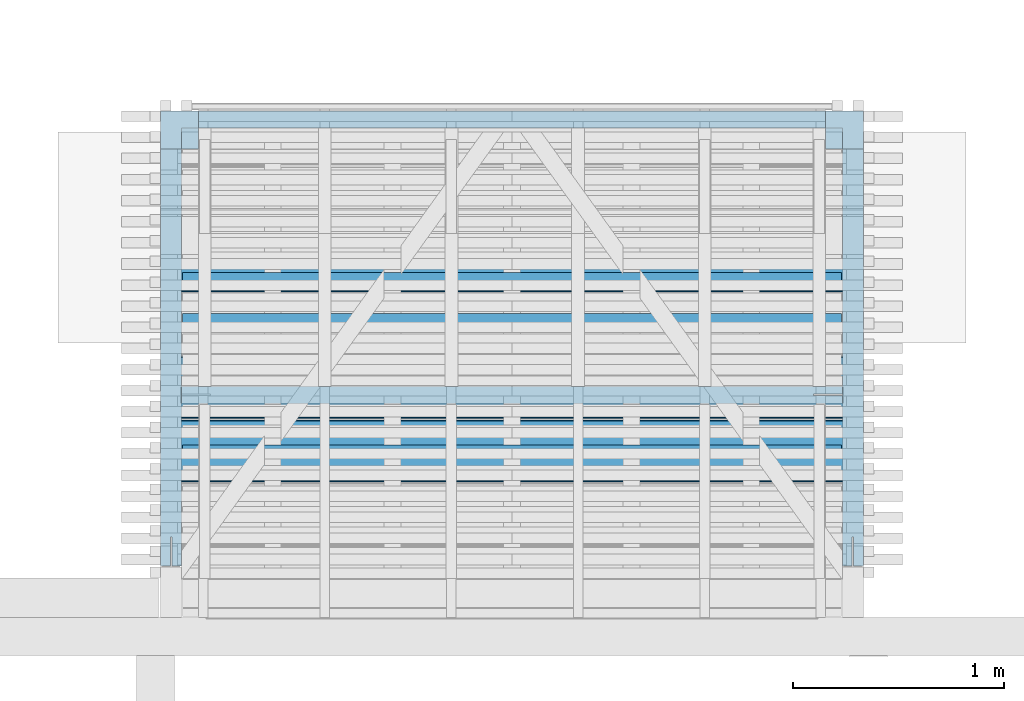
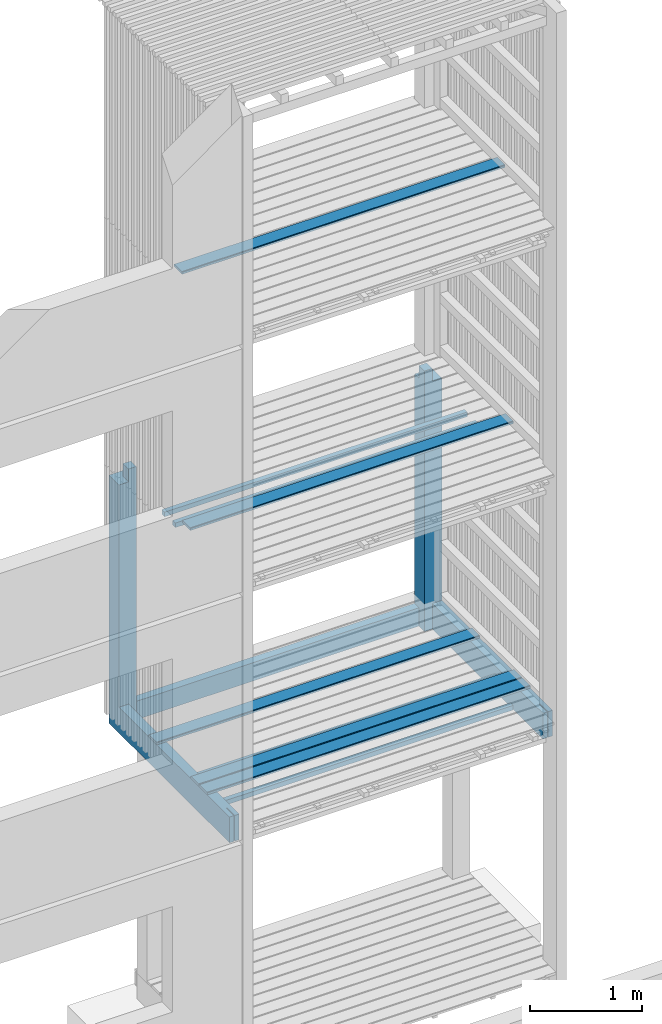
# One storey, part 119 of 182: 9 beams.
"""IFC2X3 building model written with IfcOpenShell, lengths in metres."""

from ifc_helpers import new_model, si_unit, frame, origin, place, context, project, spatial, faceted_brep, element, save


model = new_model("IFC2X3")

# Units and contexts
model_context = context("Model", 3, precision=1e-06, world=origin())
ifc_project = project(units=[si_unit("LENGTHUNIT", "METRE"), si_unit("PLANEANGLEUNIT", "RADIAN")], contexts=[model_context])

# Site, building, storey
site = spatial("IfcSite", under=ifc_project, CompositionType="ELEMENT")
building = spatial("IfcBuilding", under=site, CompositionType="ELEMENT")
storey = spatial("IfcBuildingStorey", under=building, Name="vs", CompositionType="ELEMENT", Elevation=-0.85)

# Beams
placement = place(None, origin())
beam_1_placement = place(placement, frame((54.68999999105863, 6.192577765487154, 2.437999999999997), z_axis=(0.0, -1.0, 0.0), x_axis=(0.0, 0.0, 1.0)))
element("IfcBeam", 1, at=beam_1_placement, inside=storey, Name="Poteau", context=model_context, shape_type="Brep", body=[
    faceted_brep([(2.841999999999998, -1.564999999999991, -0.997499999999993), (2.701999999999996, -1.564999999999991, -0.997499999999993), (2.701999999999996, -1.484999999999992, -0.997499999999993), (2.841999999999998, -1.484999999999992, -0.997499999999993), (2.701999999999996, 1.664999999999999, -1.077499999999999), (2.701999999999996, 1.485000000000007, -1.077499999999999), (0.202000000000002, 1.485000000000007, -1.077499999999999), (0.202000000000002, -1.484999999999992, -1.077499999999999), (2.701999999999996, -1.484999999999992, -1.077499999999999), (2.701999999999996, -1.664999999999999, -1.077499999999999), (0.002000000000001, -1.664999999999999, -1.077499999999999), (0.002000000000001, 1.664999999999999, -1.077499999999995), (0.282000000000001, -1.664999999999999, 1.077499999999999), (0.002000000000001, -1.664999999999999, 1.077499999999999), (0.002000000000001, -1.664999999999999, -1.077499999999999), (2.701999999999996, -1.664999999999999, -1.077499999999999), (2.701999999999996, -1.664999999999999, -0.897499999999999), (0.282000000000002, -1.664999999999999, -0.897499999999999), (2.701999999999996, -1.664999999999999, -0.897499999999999), (2.701999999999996, -1.664999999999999, -1.077499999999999), (2.701999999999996, -1.484999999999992, -1.077499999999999), (2.701999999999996, -1.484999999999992, -0.997499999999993), (2.701999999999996, -1.564999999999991, -0.997499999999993), (2.701999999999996, -1.564999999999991, -0.897499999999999), (2.701999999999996, -1.564999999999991, -0.897499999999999), (2.701999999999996, -1.564999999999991, -0.997499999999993), (2.841999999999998, -1.564999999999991, -0.997499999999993), (2.841999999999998, -1.564999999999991, -0.897499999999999), (2.841999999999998, -1.564999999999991, -0.897499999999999), (2.841999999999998, -1.564999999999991, -0.997499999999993), (2.841999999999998, -1.484999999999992, -0.997499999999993), (2.841999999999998, -1.484999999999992, -0.897499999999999), (0.002000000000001, -1.564999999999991, -0.897499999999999), (0.282000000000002, -1.564999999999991, -0.897499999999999), (0.282000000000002, -1.664999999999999, -0.897499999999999), (2.701999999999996, -1.664999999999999, -0.897499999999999), (2.701999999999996, -1.564999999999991, -0.897499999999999), (2.841999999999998, -1.564999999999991, -0.897499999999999), (2.841999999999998, -1.484999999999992, -0.897499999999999), (0.002000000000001, -1.484999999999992, -0.897499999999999), (0.202000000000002, -1.484999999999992, -0.997499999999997), (0.002000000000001, -1.484999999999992, -0.997499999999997), (0.002000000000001, -1.484999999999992, -0.897499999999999), (2.841999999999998, -1.484999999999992, -0.897499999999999), (2.841999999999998, -1.484999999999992, -0.997499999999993), (2.701999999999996, -1.484999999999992, -0.997499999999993), (2.701999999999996, -1.484999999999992, -1.077499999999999), (0.202000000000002, -1.484999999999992, -1.077499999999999), (2.841999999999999, 1.565000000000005, -0.897499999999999), (2.701999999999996, 1.565000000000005, -0.897499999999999), (2.701999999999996, 1.664999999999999, -0.897499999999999), (0.282000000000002, 1.664999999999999, -0.897499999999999), (0.282000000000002, 1.565000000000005, -0.897499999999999), (0.002000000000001, 1.565000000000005, -0.897499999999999), (0.002000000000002, 1.485000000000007, -0.897499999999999), (2.841999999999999, 1.485000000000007, -0.897499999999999), (2.841999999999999, 1.485000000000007, -0.997499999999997), (2.841999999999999, 1.485000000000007, -0.897499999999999), (0.002000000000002, 1.485000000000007, -0.897499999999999), (0.002000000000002, 1.485000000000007, -0.997500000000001), (0.202000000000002, 1.485000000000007, -0.997500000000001), (0.202000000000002, 1.485000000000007, -1.077499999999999), (2.701999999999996, 1.485000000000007, -1.077499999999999), (2.701999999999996, 1.485000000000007, -0.997499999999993), (2.701999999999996, 1.664999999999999, -1.077499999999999), (0.002000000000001, 1.664999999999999, -1.077499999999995), (0.002000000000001, 1.664999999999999, 1.077499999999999), (0.282000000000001, 1.664999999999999, 1.077499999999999), (0.282000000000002, 1.664999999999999, -0.897499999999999), (2.701999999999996, 1.664999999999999, -0.897499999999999), (0.202000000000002, 1.485000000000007, -0.997500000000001), (0.002000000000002, 1.485000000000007, -0.997500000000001), (0.002000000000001, -1.484999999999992, -0.997499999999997), (0.202000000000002, -1.484999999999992, -0.997499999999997), (0.202000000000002, -1.484999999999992, -1.077499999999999), (0.202000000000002, 1.485000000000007, -1.077499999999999), (0.202000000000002, 1.485000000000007, -0.997500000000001), (0.202000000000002, -1.484999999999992, -0.997499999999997), (0.002000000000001, -1.42799999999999, 0.263500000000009), (0.002, -1.564999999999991, 0.263500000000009), (0.177, -1.564999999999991, 0.263500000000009), (0.202000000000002, -1.564999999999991, 0.263500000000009), (0.202000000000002, -1.42799999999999, 0.263500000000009), (0.002000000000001, -1.42799999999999, 0.271500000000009), (0.002000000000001, -1.42799999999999, 0.263500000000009), (0.202000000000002, -1.42799999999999, 0.263500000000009), (0.202000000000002, -1.42799999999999, 0.271500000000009), (0.177, -1.564999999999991, 0.271500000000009), (0.002, -1.564999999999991, 0.271500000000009), (0.002000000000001, -1.42799999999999, 0.271500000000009), (0.202000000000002, -1.42799999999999, 0.271500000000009), (0.202000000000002, -1.564999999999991, 0.271500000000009), (0.177, -1.564999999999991, 0.263500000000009), (0.002, -1.564999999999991, 0.263500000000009), (0.002, -1.564999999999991, 0.22950000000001), (0.177, -1.564999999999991, 0.22950000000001), (0.202000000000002, -1.564999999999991, 0.271500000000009), (0.202000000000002, -1.42799999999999, 0.271500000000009), (0.202000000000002, -1.42799999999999, 0.263500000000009), (0.202000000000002, -1.564999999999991, 0.263500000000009), (0.202000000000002, -1.564999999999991, 0.227500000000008), (0.202000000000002, 1.565000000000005, 0.227500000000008), (0.202000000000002, 1.565000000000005, 0.30750000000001), (0.202000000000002, -1.564999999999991, 0.30750000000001), (0.002000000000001, 1.565000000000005, 0.227500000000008), (0.202000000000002, 1.565000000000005, 0.227500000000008), (0.202000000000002, -1.564999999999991, 0.227500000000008), (0.002, -1.564999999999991, 0.227500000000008), (0.202000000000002, -1.564999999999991, 0.30750000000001), (0.202000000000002, 1.565000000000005, 0.30750000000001), (0.002000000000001, 1.565000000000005, 0.30750000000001), (0.002, -1.564999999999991, 0.30750000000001), (0.002, -1.564999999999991, 0.305500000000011), (0.002, -1.564999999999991, 0.271500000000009), (0.177, -1.564999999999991, 0.271500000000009), (0.177, -1.564999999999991, 0.305500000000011), (0.002, -1.564999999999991, 0.227500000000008), (0.202000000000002, -1.564999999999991, 0.227500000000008), (0.202000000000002, -1.564999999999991, 0.263500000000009), (0.177, -1.564999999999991, 0.263500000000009), (0.177, -1.564999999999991, 0.271500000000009), (0.202000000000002, -1.564999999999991, 0.271500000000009), (0.202000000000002, -1.564999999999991, 0.30750000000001), (0.002, -1.564999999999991, 0.30750000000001), (0.002000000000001, -1.564999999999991, 1.077499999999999), (0.282000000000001, -1.564999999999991, 1.077499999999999), (0.282000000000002, -1.564999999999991, -0.897499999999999), (0.002000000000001, -1.564999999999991, -0.897499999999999), (0.002, -1.569999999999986, 0.22950000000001), (0.002, -1.569999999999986, 0.305500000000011), (0.177, -1.569999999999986, 0.305500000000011), (0.177, -1.569999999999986, 0.22950000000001), (0.177, -1.564999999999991, 0.271500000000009), (0.177, -1.564999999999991, 0.263500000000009), (0.177, -1.564999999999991, 0.22950000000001), (0.177, -1.569999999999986, 0.22950000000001), (0.177, -1.569999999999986, 0.305500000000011), (0.177, -1.564999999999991, 0.305500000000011), (0.177, -1.564999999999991, 0.22950000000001), (0.002, -1.564999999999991, 0.22950000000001), (0.002, -1.569999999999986, 0.22950000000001), (0.177, -1.569999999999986, 0.22950000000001), (0.177, -1.569999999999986, 0.305500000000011), (0.002, -1.569999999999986, 0.305500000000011), (0.002, -1.564999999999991, 0.305500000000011), (0.177, -1.564999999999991, 0.305500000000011), (0.002000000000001, -1.610999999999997, 0.940500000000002), (0.002000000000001, -1.618999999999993, 0.940500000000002), (0.282000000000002, -1.618999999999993, 0.940500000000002), (0.282000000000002, -1.610999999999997, 0.940500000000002), (0.282000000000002, -1.618999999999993, 0.940500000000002), (0.002000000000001, -1.618999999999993, 0.940500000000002), (0.002000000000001, -1.618999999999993, 1.077499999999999), (0.282000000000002, -1.618999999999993, 1.077500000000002), (0.002000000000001, -1.664999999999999, 1.077499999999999), (0.282000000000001, -1.664999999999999, 1.077499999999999), (0.282000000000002, -1.618999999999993, 1.077500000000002), (0.002000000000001, -1.618999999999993, 1.077499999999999), (0.282000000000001, -1.564999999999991, 1.077499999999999), (0.002000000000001, -1.564999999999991, 1.077499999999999), (0.002000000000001, -1.610999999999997, 1.077499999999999), (0.282000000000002, -1.610999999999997, 1.077500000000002), (0.282000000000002, -1.610999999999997, 1.077500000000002), (0.002000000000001, -1.610999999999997, 1.077499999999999), (0.002000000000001, -1.610999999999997, 0.940500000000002), (0.282000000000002, -1.610999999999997, 0.940500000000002), (0.282000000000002, -1.564999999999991, -0.897499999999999), (0.282000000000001, -1.564999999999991, 1.077499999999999), (0.282000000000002, -1.610999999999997, 1.077500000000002), (0.282000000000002, -1.610999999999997, 0.940500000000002), (0.282000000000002, -1.618999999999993, 0.940500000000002), (0.282000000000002, -1.618999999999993, 1.077500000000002), (0.282000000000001, -1.664999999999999, 1.077499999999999), (0.282000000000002, -1.664999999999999, -0.897499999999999), (0.002000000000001, 1.619000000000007, 0.940499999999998), (0.002000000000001, 1.611000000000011, 0.940499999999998), (0.282000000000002, 1.611000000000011, 0.940499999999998), (0.282000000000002, 1.619000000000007, 0.940499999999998), (0.282000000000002, 1.611000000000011, 0.940499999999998), (0.002000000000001, 1.611000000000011, 0.940499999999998), (0.002000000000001, 1.611000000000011, 1.077499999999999), (0.282000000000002, 1.611000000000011, 1.077499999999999), (0.002000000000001, 1.565000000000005, 1.077499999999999), (0.282000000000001, 1.565000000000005, 1.077499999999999), (0.282000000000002, 1.611000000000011, 1.077499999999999), (0.002000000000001, 1.611000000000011, 1.077499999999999), (0.282000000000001, 1.664999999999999, 1.077499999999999), (0.002000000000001, 1.664999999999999, 1.077499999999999), (0.002000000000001, 1.619000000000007, 1.077499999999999), (0.282000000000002, 1.619000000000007, 1.077499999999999), (0.282000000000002, 1.619000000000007, 1.077499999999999), (0.002000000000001, 1.619000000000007, 1.077499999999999), (0.002000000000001, 1.619000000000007, 0.940499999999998), (0.282000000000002, 1.619000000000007, 0.940499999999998), (0.282000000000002, 1.664999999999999, -0.897499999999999), (0.282000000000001, 1.664999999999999, 1.077499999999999), (0.282000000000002, 1.619000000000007, 1.077499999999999), (0.282000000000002, 1.619000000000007, 0.940499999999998), (0.282000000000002, 1.611000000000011, 0.940499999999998), (0.282000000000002, 1.611000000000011, 1.077499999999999), (0.282000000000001, 1.565000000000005, 1.077499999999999), (0.282000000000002, 1.565000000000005, -0.897499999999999), (0.202000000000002, 1.565000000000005, 0.227500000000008), (0.002000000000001, 1.565000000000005, 0.227500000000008), (0.002000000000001, 1.565000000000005, -0.897499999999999), (0.282000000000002, 1.565000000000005, -0.897499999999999), (0.282000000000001, 1.565000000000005, 1.077499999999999), (0.002000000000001, 1.565000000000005, 1.077499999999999), (0.002000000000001, 1.565000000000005, 0.30750000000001), (0.202000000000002, 1.565000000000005, 0.30750000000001), (0.002, 1.442250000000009, 0.249000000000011), (0.002, 1.442250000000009, 0.28600000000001), (1e-15, 1.442250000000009, 0.28600000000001), (1e-15, 1.442250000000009, 0.249000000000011), (0.002, 1.442250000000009, 0.249000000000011), (1e-15, 1.442250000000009, 0.249000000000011), (0.0, 1.565750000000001, 0.249000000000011), (0.002, 1.565750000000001, 0.249000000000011), (1e-15, 1.442250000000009, 0.28600000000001), (0.002, 1.442250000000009, 0.28600000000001), (0.002, 1.565750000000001, 0.28600000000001), (0.0, 1.565750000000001, 0.28600000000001), (1e-15, 1.442250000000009, 0.249000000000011), (1e-15, 1.442250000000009, 0.28600000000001), (0.0, 1.565750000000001, 0.28600000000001), (0.0, 1.565750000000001, 0.249000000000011), (0.0, 1.565750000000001, 0.249000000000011), (0.0, 1.565750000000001, 0.28600000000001), (0.002, 1.565750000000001, 0.28600000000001), (0.002, 1.565750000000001, 0.249000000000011), (0.002000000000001, 1.565000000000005, 0.30750000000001), (0.002000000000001, 1.565000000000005, 1.077499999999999), (0.002000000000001, 1.611000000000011, 1.077499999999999), (0.002000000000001, 1.611000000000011, 0.940499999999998), (0.002000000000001, 1.619000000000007, 0.940499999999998), (0.002000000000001, 1.619000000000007, 1.077499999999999), (0.002000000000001, 1.664999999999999, 1.077499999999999), (0.002000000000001, 1.664999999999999, -1.077499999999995), (0.002000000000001, -1.664999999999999, -1.077499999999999), (0.002000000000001, -1.664999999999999, 1.077499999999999), (0.002000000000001, -1.618999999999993, 1.077499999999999), (0.002000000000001, -1.618999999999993, 0.940500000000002), (0.002000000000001, -1.610999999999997, 0.940500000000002), (0.002000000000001, -1.610999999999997, 1.077499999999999), (0.002000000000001, -1.564999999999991, 1.077499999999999), (0.002, -1.564999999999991, 0.30750000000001), (0.002, -1.564999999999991, 0.271500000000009), (0.002, -1.564999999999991, 0.305500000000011), (0.002, -1.569999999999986, 0.305500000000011), (0.002, -1.569999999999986, 0.22950000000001), (0.002, -1.564999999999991, 0.22950000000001), (0.002, -1.564999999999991, 0.263500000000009), (0.002000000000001, -1.42799999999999, 0.263500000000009), (0.002000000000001, -1.42799999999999, 0.271500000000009), (0.002000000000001, 1.565000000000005, -0.897499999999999), (0.002000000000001, 1.565000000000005, 0.227500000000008), (0.002, -1.564999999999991, 0.227500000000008), (0.002000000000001, -1.564999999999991, -0.897499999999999), (0.002000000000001, -1.484999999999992, -0.897499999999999), (0.002000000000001, -1.484999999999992, -0.997499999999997), (0.002000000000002, 1.485000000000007, -0.997500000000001), (0.002000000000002, 1.485000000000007, -0.897499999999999), (0.002, 1.565750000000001, 0.249000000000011), (0.002, 1.565750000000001, 0.28600000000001), (0.002, 1.442250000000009, 0.28600000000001), (0.002, 1.442250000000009, 0.249000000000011), (2.841999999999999, 1.485000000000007, -0.997499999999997), (2.701999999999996, 1.485000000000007, -0.997499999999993), (2.701999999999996, 1.565000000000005, -0.997499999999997), (2.841999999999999, 1.565000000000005, -0.997499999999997), (2.841999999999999, 1.565000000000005, -0.897499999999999), (2.841999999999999, 1.485000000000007, -0.897499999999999), (2.841999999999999, 1.485000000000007, -0.997499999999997), (2.841999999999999, 1.565000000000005, -0.997499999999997), (2.701999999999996, 1.565000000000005, -0.897499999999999), (2.841999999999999, 1.565000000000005, -0.897499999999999), (2.841999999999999, 1.565000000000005, -0.997499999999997), (2.701999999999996, 1.565000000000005, -0.997499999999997), (2.701999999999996, 1.664999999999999, -1.077499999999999), (2.701999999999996, 1.664999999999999, -0.897499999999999), (2.701999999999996, 1.565000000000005, -0.897499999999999), (2.701999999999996, 1.565000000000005, -0.997499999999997), (2.701999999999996, 1.485000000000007, -0.997499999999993), (2.701999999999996, 1.485000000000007, -1.077499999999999)], [[[0, 1, 2, 3]], [[4, 5, 6, 7, 8, 9, 10, 11]], [[12, 13, 14, 15, 16, 17]], [[18, 19, 20, 21, 22, 23]], [[24, 25, 26, 27]], [[28, 29, 30, 31]], [[32, 33, 34, 35, 36, 37, 38, 39]], [[40, 41, 42, 43, 44, 45, 46, 47]], [[48, 49, 50, 51, 52, 53, 54, 55]], [[56, 57, 58, 59, 60, 61, 62, 63]], [[64, 65, 66, 67, 68, 69]], [[70, 71, 72, 73]], [[74, 75, 76, 77]], [[78, 79, 80, 81, 82]], [[83, 84, 85, 86]], [[87, 88, 89, 90, 91]], [[92, 93, 94, 95]], [[96, 97, 98, 99, 100, 101, 102, 103]], [[104, 105, 106, 107]], [[108, 109, 110, 111]], [[112, 113, 114, 115]], [[116, 117, 118, 119, 120, 121, 122, 123, 124, 125, 126, 127]], [[128, 129, 130, 131]], [[132, 133, 134, 135, 136, 137]], [[138, 139, 140, 141]], [[142, 143, 144, 145]], [[146, 147, 148, 149]], [[150, 151, 152, 153]], [[154, 155, 156, 157]], [[158, 159, 160, 161]], [[162, 163, 164, 165]], [[166, 167, 168, 169, 170, 171, 172, 173]], [[174, 175, 176, 177]], [[178, 179, 180, 181]], [[182, 183, 184, 185]], [[186, 187, 188, 189]], [[190, 191, 192, 193]], [[194, 195, 196, 197, 198, 199, 200, 201]], [[202, 203, 204, 205, 206, 207, 208, 209]], [[210, 211, 212, 213]], [[214, 215, 216, 217]], [[218, 219, 220, 221]], [[222, 223, 224, 225]], [[226, 227, 228, 229]], [[230, 231, 232, 233, 234, 235, 236, 237, 238, 239, 240, 241, 242, 243, 244, 245], [246, 247, 248, 249, 250, 251, 252, 253], [254, 255, 256, 257, 258, 259, 260, 261], [262, 263, 264, 265]], [[266, 267, 268, 269]], [[270, 271, 272, 273]], [[274, 275, 276, 277]], [[278, 279, 280, 281, 282, 283]]]),
])
beam_2_placement = place(placement, frame((56.24999999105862, 6.480494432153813, 5.167399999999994), z_axis=(0.0, 0.0, 1.0), x_axis=(-1.0, 0.0, 0.0)))
element("IfcBeam", 2, at=beam_2_placement, inside=storey, Name="Bardage", context=model_context, shape_type="Brep", body=[
    faceted_brep([(3.120000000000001, 0.024999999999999, -0.024999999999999), (3.120000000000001, 0.024999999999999, 0.024999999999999), (3.120000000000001, -0.024999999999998, 0.024999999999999), (3.120000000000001, -0.024999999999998, -0.024999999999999), (-3e-15, -0.025000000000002, -0.024999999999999), (-3e-15, -0.025000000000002, 0.024999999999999), (-3e-15, 0.024999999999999, 0.024999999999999), (-3e-15, 0.024999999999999, -0.024999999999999), (-3e-15, 0.024999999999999, -0.024999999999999), (-3e-15, 0.024999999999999, 0.024999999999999), (3.120000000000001, 0.024999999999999, 0.024999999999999), (3.120000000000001, 0.024999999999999, -0.024999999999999), (-3e-15, 0.024999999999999, 0.024999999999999), (-3e-15, -0.025000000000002, 0.024999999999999), (3.120000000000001, -0.024999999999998, 0.024999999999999), (3.120000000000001, 0.024999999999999, 0.024999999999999), (-3e-15, -0.025000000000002, 0.024999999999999), (-3e-15, -0.025000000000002, -0.024999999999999), (3.120000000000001, -0.024999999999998, -0.024999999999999), (3.120000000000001, -0.024999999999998, 0.024999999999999), (-3e-15, -0.025000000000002, -0.024999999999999), (-3e-15, 0.024999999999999, -0.024999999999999), (3.120000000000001, 0.024999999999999, -0.024999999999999), (3.120000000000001, -0.024999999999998, -0.024999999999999)], [[[0, 1, 2, 3]], [[4, 5, 6, 7]], [[8, 9, 10, 11]], [[12, 13, 14, 15]], [[16, 17, 18, 19]], [[20, 21, 22, 23]]]),
])
beam_3_placement = place(placement, frame((56.24999999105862, 6.286327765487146, 5.167399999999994), z_axis=(0.0, 0.0, 1.0), x_axis=(-1.0, 0.0, 0.0)))
element("IfcBeam", 3, at=beam_3_placement, inside=storey, Name="Bardage", context=model_context, shape_type="Brep", body=[
    faceted_brep([(3.120000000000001, 0.024999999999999, -0.024999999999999), (3.120000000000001, 0.024999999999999, 0.025), (3.120000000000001, -0.024999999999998, 0.025), (3.120000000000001, -0.024999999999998, -0.024999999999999), (-3e-15, -0.025000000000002, -0.024999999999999), (-3e-15, -0.025000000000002, 0.025), (-3e-15, 0.024999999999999, 0.025), (-3e-15, 0.024999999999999, -0.024999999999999), (-3e-15, 0.024999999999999, -0.024999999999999), (-3e-15, 0.024999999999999, 0.025), (3.120000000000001, 0.024999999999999, 0.025), (3.120000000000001, 0.024999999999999, -0.024999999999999), (-3e-15, 0.024999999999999, 0.025), (-3e-15, -0.025000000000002, 0.025), (3.120000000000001, -0.024999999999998, 0.025), (3.120000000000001, 0.024999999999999, 0.025), (-3e-15, -0.025000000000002, 0.025), (-3e-15, -0.025000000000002, -0.024999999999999), (3.120000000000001, -0.024999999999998, -0.024999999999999), (3.120000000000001, -0.024999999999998, 0.025), (-3e-15, -0.025000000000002, -0.024999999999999), (-3e-15, 0.024999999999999, -0.024999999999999), (3.120000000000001, 0.024999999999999, -0.024999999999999), (3.120000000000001, -0.024999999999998, -0.024999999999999)], [[[0, 1, 2, 3]], [[4, 5, 6, 7]], [[8, 9, 10, 11]], [[12, 13, 14, 15]], [[16, 17, 18, 19]], [[20, 21, 22, 23]]]),
])
beam_4_placement = place(placement, frame((56.35499999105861, 5.884577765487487, 5.433499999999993), z_axis=(0.0, 0.0, 1.0), x_axis=(-1.0, -8e-15, 0.0)))
element("IfcBeam", 4, at=beam_4_placement, inside=storey, Name="Caillebotis", context=model_context, shape_type="Brep", body=[
    faceted_brep([(3.329999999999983, -0.072500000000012, -0.0135), (3.329999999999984, 0.072499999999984, -0.0135), (3.329999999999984, 0.072499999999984, 0.0085), (3.329999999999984, 0.067499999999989, 0.0135), (3.329999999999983, -0.067500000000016, 0.0135), (3.329999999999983, -0.072500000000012, 0.008500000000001), (-1.5e-14, -0.072499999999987, 0.008500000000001), (-1.5e-14, -0.067499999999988, 0.0135), (-1.4e-14, 0.067500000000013, 0.0135), (-1.4e-14, 0.072500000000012, 0.0085), (-1.4e-14, 0.072500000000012, -0.0135), (-1.5e-14, -0.072499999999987, -0.0135), (3.329999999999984, 0.072499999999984, 0.0085), (3.329999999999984, 0.072499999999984, -0.0135), (-1.4e-14, 0.072500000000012, -0.0135), (-1.4e-14, 0.072500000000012, 0.0085), (3.329999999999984, 0.067499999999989, 0.0135), (3.329999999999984, 0.072499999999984, 0.0085), (-1.4e-14, 0.072500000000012, 0.0085), (-1.4e-14, 0.067500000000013, 0.0135), (3.329999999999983, -0.067500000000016, 0.0135), (3.329999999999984, 0.067499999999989, 0.0135), (-1.4e-14, 0.067500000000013, 0.0135), (-1.5e-14, -0.067499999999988, 0.0135), (3.329999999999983, -0.072500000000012, 0.008500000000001), (3.329999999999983, -0.067500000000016, 0.0135), (-1.5e-14, -0.067499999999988, 0.0135), (-1.5e-14, -0.072499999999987, 0.008500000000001), (3.329999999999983, -0.072500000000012, -0.0135), (3.329999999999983, -0.072500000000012, 0.008500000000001), (-1.5e-14, -0.072499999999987, 0.008500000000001), (-1.5e-14, -0.072499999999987, -0.0135), (-1.4e-14, 0.072500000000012, -0.0135), (3.329999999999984, 0.072499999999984, -0.0135), (3.329999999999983, -0.072500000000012, -0.0135), (-1.5e-14, -0.072499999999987, -0.0135)], [[[0, 1, 2, 3, 4, 5]], [[6, 7, 8, 9, 10, 11]], [[12, 13, 14, 15]], [[16, 17, 18, 19]], [[20, 21, 22, 23]], [[24, 25, 26, 27]], [[28, 29, 30, 31]], [[32, 33, 34, 35]]]),
])
beam_5_placement = place(placement, frame((56.35499999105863, 5.584577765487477, 2.733499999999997), z_axis=(0.0, 0.0, 1.0), x_axis=(-1.0, 0.0, 0.0)))
element("IfcBeam", 5, at=beam_5_placement, inside=storey, Name="Caillebotis", context=model_context, shape_type="Brep", body=[
    faceted_brep([(3.329999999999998, -0.072499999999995, -0.0135), (3.329999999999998, 0.072500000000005, -0.0135), (3.329999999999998, 0.072500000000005, 0.0085), (3.329999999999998, 0.067500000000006, 0.0135), (3.329999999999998, -0.067499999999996, 0.0135), (3.329999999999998, -0.072499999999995, 0.008500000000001), (0.0, -0.072499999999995, 0.008500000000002), (0.0, -0.067499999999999, 0.0135), (0.0, 0.067500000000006, 0.0135), (0.0, 0.072500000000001, 0.0085), (0.0, 0.072500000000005, -0.0135), (0.0, -0.072499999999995, -0.0135), (3.329999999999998, 0.072500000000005, 0.0085), (3.329999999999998, 0.072500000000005, -0.0135), (0.0, 0.072500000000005, -0.0135), (0.0, 0.072500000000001, 0.0085), (3.329999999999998, 0.067500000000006, 0.0135), (3.329999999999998, 0.072500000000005, 0.0085), (0.0, 0.072500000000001, 0.0085), (0.0, 0.067500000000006, 0.0135), (3.329999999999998, -0.067499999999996, 0.0135), (3.329999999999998, 0.067500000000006, 0.0135), (0.0, 0.067500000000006, 0.0135), (0.0, -0.067499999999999, 0.0135), (3.329999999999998, -0.072499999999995, 0.008500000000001), (3.329999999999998, -0.067499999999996, 0.0135), (0.0, -0.067499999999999, 0.0135), (0.0, -0.072499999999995, 0.008500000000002), (3.329999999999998, -0.072499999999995, -0.0135), (3.329999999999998, -0.072499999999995, 0.008500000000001), (0.0, -0.072499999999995, 0.008500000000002), (0.0, -0.072499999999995, -0.0135), (0.0, 0.072500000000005, -0.0135), (3.329999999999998, 0.072500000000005, -0.0135), (3.329999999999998, -0.072499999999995, -0.0135), (0.0, -0.072499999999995, -0.0135)], [[[0, 1, 2, 3, 4, 5]], [[6, 7, 8, 9, 10, 11]], [[12, 13, 14, 15]], [[16, 17, 18, 19]], [[20, 21, 22, 23]], [[24, 25, 26, 27]], [[28, 29, 30, 31]], [[32, 33, 34, 35]]]),
])
beam_6_placement = place(placement, frame((56.35499999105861, 6.484577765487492, 2.733499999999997), z_axis=(0.0, 0.0, 1.0), x_axis=(-1.0, -1e-14, 0.0)))
element("IfcBeam", 6, at=beam_6_placement, inside=storey, Name="Caillebotis", context=model_context, shape_type="Brep", body=[
    faceted_brep([(3.329999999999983, -0.072500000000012, -0.013499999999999), (3.329999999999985, 0.072499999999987, -0.013499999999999), (3.329999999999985, 0.072499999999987, 0.0085), (3.329999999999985, 0.067499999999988, 0.013500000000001), (3.329999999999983, -0.067500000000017, 0.013500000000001), (3.329999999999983, -0.072500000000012, 0.008500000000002), (-1.5e-14, -0.072499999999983, 0.008500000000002), (-1.5e-14, -0.067499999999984, 0.013500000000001), (-1.4e-14, 0.067500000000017, 0.0135), (-1.4e-14, 0.072500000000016, 0.008500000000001), (-1.4e-14, 0.072500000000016, -0.013499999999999), (-1.5e-14, -0.072499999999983, -0.013499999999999), (3.329999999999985, 0.072499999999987, 0.0085), (3.329999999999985, 0.072499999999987, -0.013499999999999), (-1.4e-14, 0.072500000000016, -0.013499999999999), (-1.4e-14, 0.072500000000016, 0.008500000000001), (3.329999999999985, 0.067499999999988, 0.013500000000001), (3.329999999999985, 0.072499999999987, 0.0085), (-1.4e-14, 0.072500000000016, 0.008500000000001), (-1.4e-14, 0.067500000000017, 0.0135), (3.329999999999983, -0.067500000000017, 0.013500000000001), (3.329999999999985, 0.067499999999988, 0.013500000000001), (-1.4e-14, 0.067500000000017, 0.0135), (-1.5e-14, -0.067499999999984, 0.013500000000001), (3.329999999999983, -0.072500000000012, 0.008500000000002), (3.329999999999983, -0.067500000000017, 0.013500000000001), (-1.5e-14, -0.067499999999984, 0.013500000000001), (-1.5e-14, -0.072499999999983, 0.008500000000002), (3.329999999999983, -0.072500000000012, -0.013499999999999), (3.329999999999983, -0.072500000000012, 0.008500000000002), (-1.5e-14, -0.072499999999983, 0.008500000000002), (-1.5e-14, -0.072499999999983, -0.013499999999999), (-1.4e-14, 0.072500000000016, -0.013499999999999), (3.329999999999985, 0.072499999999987, -0.013499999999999), (3.329999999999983, -0.072500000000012, -0.013499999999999), (-1.5e-14, -0.072499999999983, -0.013499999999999)], [[[0, 1, 2, 3, 4, 5]], [[6, 7, 8, 9, 10, 11]], [[12, 13, 14, 15]], [[16, 17, 18, 19]], [[20, 21, 22, 23]], [[24, 25, 26, 27]], [[28, 29, 30, 31]], [[32, 33, 34, 35]]]),
])
beam_7_placement = place(placement, frame((56.24999999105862, 5.661327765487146, 2.467999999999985), z_axis=(0.0, 0.0, 1.0), x_axis=(-1.0, 0.0, 0.0)))
element("IfcBeam", 7, at=beam_7_placement, inside=storey, Name="Bardage", context=model_context, shape_type="Brep", body=[
    faceted_brep([(3.120000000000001, 0.024999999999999, -0.025), (3.120000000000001, -0.024999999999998, -0.025), (-3e-15, -0.025000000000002, -0.025), (-3e-15, 0.024999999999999, -0.025), (-3e-15, -0.025000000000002, -0.025), (3.120000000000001, -0.024999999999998, -0.025), (3.120000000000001, -0.024999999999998, 0.025), (-3e-15, -0.025000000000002, 0.025), (3.120000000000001, -0.024999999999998, -0.025), (3.120000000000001, 0.024999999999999, -0.025), (3.120000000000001, 0.024999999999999, 0.025), (3.120000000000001, -0.024999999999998, 0.025), (3.120000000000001, 0.024999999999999, 0.025), (3.120000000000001, 0.024999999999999, -0.025), (-3e-15, 0.024999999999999, -0.025), (-3e-15, 0.024999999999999, 0.025), (-3e-15, -0.025000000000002, 0.025), (3.120000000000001, -0.024999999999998, 0.025), (3.120000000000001, 0.024999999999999, 0.025), (-3e-15, 0.024999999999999, 0.025), (-3e-15, -0.025000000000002, -0.025), (-3e-15, -0.025000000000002, 0.025), (-3e-15, 0.024999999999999, 0.025), (-3e-15, 0.024999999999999, -0.025)], [[[0, 1, 2, 3]], [[4, 5, 6, 7]], [[8, 9, 10, 11]], [[12, 13, 14, 15]], [[16, 17, 18, 19]], [[20, 21, 22, 23]]]),
])
beam_8_placement = place(placement, frame((56.35499999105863, 6.034577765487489, 8.13349999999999), z_axis=(0.0, 0.0, 1.0), x_axis=(-1.0, -1e-14, 0.0)))
element("IfcBeam", 8, at=beam_8_placement, inside=storey, Name="Caillebotis", context=model_context, shape_type="Brep", body=[
    faceted_brep([(3.329999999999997, -0.072500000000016, -0.013500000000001), (3.329999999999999, 0.072499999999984, -0.013500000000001), (3.329999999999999, 0.072499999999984, 0.008499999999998), (3.329999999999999, 0.067499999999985, 0.013499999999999), (3.329999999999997, -0.067500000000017, 0.013499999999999), (3.329999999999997, -0.072500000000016, 0.0085), (-1e-15, -0.072499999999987, 0.0085), (-1e-15, -0.067499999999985, 0.013499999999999), (1e-15, 0.067500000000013, 0.013499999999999), (1e-15, 0.072500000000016, 0.008499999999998), (1e-15, 0.072500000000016, -0.013500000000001), (-1e-15, -0.072499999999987, -0.013500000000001), (3.329999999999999, 0.072499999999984, 0.008499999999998), (3.329999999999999, 0.072499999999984, -0.013500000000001), (1e-15, 0.072500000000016, -0.013500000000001), (1e-15, 0.072500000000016, 0.008499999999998), (3.329999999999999, 0.067499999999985, 0.013499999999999), (3.329999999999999, 0.072499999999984, 0.008499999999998), (1e-15, 0.072500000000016, 0.008499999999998), (1e-15, 0.067500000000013, 0.013499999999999), (3.329999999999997, -0.067500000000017, 0.013499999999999), (3.329999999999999, 0.067499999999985, 0.013499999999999), (1e-15, 0.067500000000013, 0.013499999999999), (-1e-15, -0.067499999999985, 0.013499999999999), (3.329999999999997, -0.072500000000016, 0.0085), (3.329999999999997, -0.067500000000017, 0.013499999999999), (-1e-15, -0.067499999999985, 0.013499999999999), (-1e-15, -0.072499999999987, 0.0085), (3.329999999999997, -0.072500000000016, -0.013500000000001), (3.329999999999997, -0.072500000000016, 0.0085), (-1e-15, -0.072499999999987, 0.0085), (-1e-15, -0.072499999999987, -0.013500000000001), (1e-15, 0.072500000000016, -0.013500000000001), (3.329999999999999, 0.072499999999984, -0.013500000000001), (3.329999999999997, -0.072500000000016, -0.013500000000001), (-1e-15, -0.072499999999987, -0.013500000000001)], [[[0, 1, 2, 3, 4, 5]], [[6, 7, 8, 9, 10, 11]], [[12, 13, 14, 15]], [[16, 17, 18, 19]], [[20, 21, 22, 23]], [[24, 25, 26, 27]], [[28, 29, 30, 31]], [[32, 33, 34, 35]]]),
])
beam_9_placement = place(placement, frame((56.35499999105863, 5.734577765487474, 2.733499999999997), z_axis=(0.0, 0.0, 1.0), x_axis=(-1.0, 0.0, 0.0)))
element("IfcBeam", 9, at=beam_9_placement, inside=storey, Name="Caillebotis", context=model_context, shape_type="Brep", body=[
    faceted_brep([(3.329999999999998, -0.072499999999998, -0.0135), (3.329999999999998, 0.072500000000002, -0.0135), (3.329999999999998, 0.072500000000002, 0.0085), (3.329999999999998, 0.067500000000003, 0.0135), (3.329999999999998, -0.067500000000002, 0.0135), (3.329999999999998, -0.072499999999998, 0.008500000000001), (0.0, -0.072499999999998, 0.008500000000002), (0.0, -0.067500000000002, 0.0135), (0.0, 0.067499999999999, 0.013500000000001), (0.0, 0.072499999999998, 0.0085), (0.0, 0.072499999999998, -0.0135), (0.0, -0.072499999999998, -0.0135), (3.329999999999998, 0.072500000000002, 0.0085), (3.329999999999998, 0.072500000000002, -0.0135), (0.0, 0.072499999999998, -0.0135), (0.0, 0.072499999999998, 0.0085), (3.329999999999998, 0.067500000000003, 0.0135), (3.329999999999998, 0.072500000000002, 0.0085), (0.0, 0.072499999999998, 0.0085), (0.0, 0.067499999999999, 0.013500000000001), (3.329999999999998, -0.067500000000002, 0.0135), (3.329999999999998, 0.067500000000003, 0.0135), (0.0, 0.067499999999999, 0.013500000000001), (0.0, -0.067500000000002, 0.0135), (3.329999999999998, -0.072499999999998, 0.008500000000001), (3.329999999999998, -0.067500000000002, 0.0135), (0.0, -0.067500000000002, 0.0135), (0.0, -0.072499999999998, 0.008500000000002), (3.329999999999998, -0.072499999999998, -0.0135), (3.329999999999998, -0.072499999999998, 0.008500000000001), (0.0, -0.072499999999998, 0.008500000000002), (0.0, -0.072499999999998, -0.0135), (0.0, 0.072499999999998, -0.0135), (3.329999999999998, 0.072500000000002, -0.0135), (3.329999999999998, -0.072499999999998, -0.0135), (0.0, -0.072499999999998, -0.0135)], [[[0, 1, 2, 3, 4, 5]], [[6, 7, 8, 9, 10, 11]], [[12, 13, 14, 15]], [[16, 17, 18, 19]], [[20, 21, 22, 23]], [[24, 25, 26, 27]], [[28, 29, 30, 31]], [[32, 33, 34, 35]]]),
])

save(model, "model.ifc")
